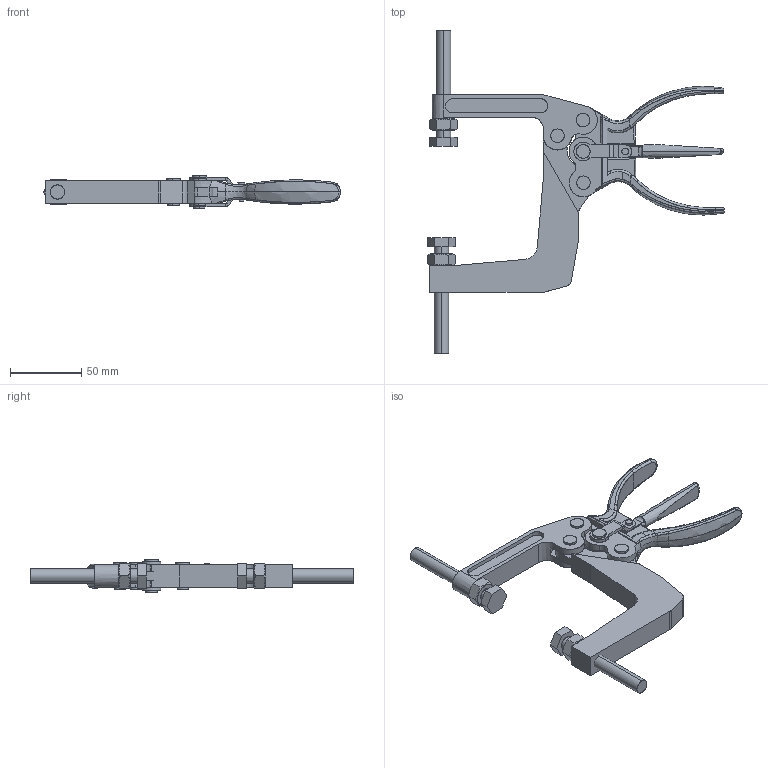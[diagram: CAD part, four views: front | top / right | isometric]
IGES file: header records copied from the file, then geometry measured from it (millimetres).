
Start section: SolidWorks IGES file using analytic representation for surfaces
Global section: file name: C:\Projetos\Grampos\Alicates\KFA-100\KFA-100-2\KFA-100-2.IGS; native system: SolidWorks 2013; preprocessor: SolidWorks 2013; author: Ricardo; date: 140904.152426; units: millimetre
Bounding box: 208.68 x 227 x 23.5 mm (x, y, z)
Surface area: 58330.4 mm2 (no closed solid volume)
Topology: 0 solids, 0 shells, 441 faces, 6396 edges, 6384 vertices
Faces by surface type: bspline 228, revolution 213
